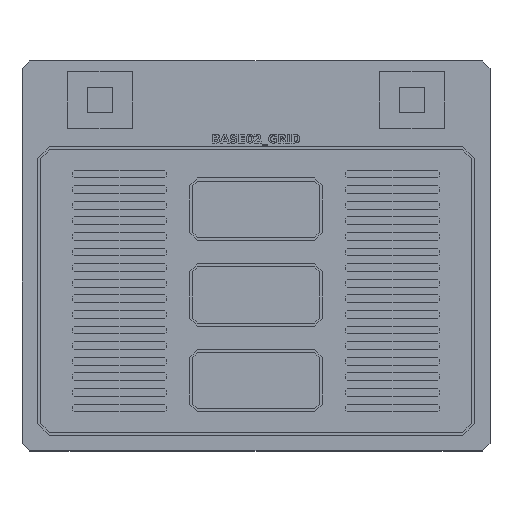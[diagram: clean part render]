
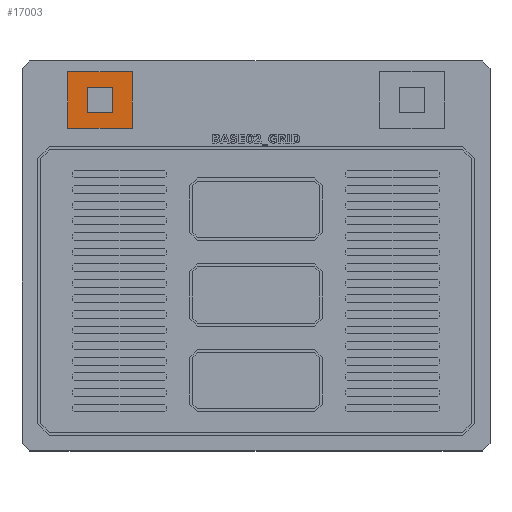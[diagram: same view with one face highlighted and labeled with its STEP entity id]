
A CAD part, top view. The second image highlights one B-rep face of the part: STEP entity #17003.
In plain terms, the highlighted planar face has unit normal (0, 0, 1).
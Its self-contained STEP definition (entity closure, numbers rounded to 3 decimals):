
#2453 = PLANE('',#2454);
#2454 = AXIS2_PLACEMENT_3D('',#2455,#2456,#2457);
#2455 = CARTESIAN_POINT('',(11.7,82.7,6.));
#2456 = DIRECTION('',(-0.,1.,0.));
#2457 = DIRECTION('',(0.,0.,1.));
#2479 = PLANE('',#2480);
#2480 = AXIS2_PLACEMENT_3D('',#2481,#2482,#2483);
#2481 = CARTESIAN_POINT('',(11.7,82.7,6.));
#2482 = DIRECTION('',(1.,0.,-0.));
#2483 = DIRECTION('',(0.,0.,1.));
#2505 = PLANE('',#2506);
#2506 = AXIS2_PLACEMENT_3D('',#2507,#2508,#2509);
#2507 = CARTESIAN_POINT('',(11.7,97.3,6.));
#2508 = DIRECTION('',(-0.,1.,0.));
#2509 = DIRECTION('',(0.,0.,1.));
#2529 = PLANE('',#2530);
#2530 = AXIS2_PLACEMENT_3D('',#2531,#2532,#2533);
#2531 = CARTESIAN_POINT('',(28.3,82.7,6.));
#2532 = DIRECTION('',(1.,0.,-0.));
#2533 = DIRECTION('',(0.,0.,1.));
#9269 = VERTEX_POINT('',#9270);
#9270 = CARTESIAN_POINT('',(28.3,82.7,6.));
#9291 = EDGE_CURVE('',#9292,#9269,#9294,.T.);
#9292 = VERTEX_POINT('',#9293);
#9293 = CARTESIAN_POINT('',(11.7,82.7,6.));
#9294 = SURFACE_CURVE('',#9295,(#9299,#9306),.PCURVE_S1.);
#9295 = LINE('',#9296,#9297);
#9296 = CARTESIAN_POINT('',(11.7,82.7,6.));
#9297 = VECTOR('',#9298,1.);
#9298 = DIRECTION('',(1.,0.,-0.));
#9299 = PCURVE('',#2453,#9300);
#9300 = DEFINITIONAL_REPRESENTATION('',(#9301),#9305);
#9301 = LINE('',#9302,#9303);
#9302 = CARTESIAN_POINT('',(0.,0.));
#9303 = VECTOR('',#9304,1.);
#9304 = DIRECTION('',(0.,1.));
#9305 = ( GEOMETRIC_REPRESENTATION_CONTEXT(2) 
PARAMETRIC_REPRESENTATION_CONTEXT() REPRESENTATION_CONTEXT('2D SPACE',''
  ) );
#9306 = PCURVE('',#9307,#9312);
#9307 = PLANE('',#9308);
#9308 = AXIS2_PLACEMENT_3D('',#9309,#9310,#9311);
#9309 = CARTESIAN_POINT('',(11.7,82.7,6.));
#9310 = DIRECTION('',(0.,0.,1.));
#9311 = DIRECTION('',(1.,0.,-0.));
#9312 = DEFINITIONAL_REPRESENTATION('',(#9313),#9317);
#9313 = LINE('',#9314,#9315);
#9314 = CARTESIAN_POINT('',(0.,0.));
#9315 = VECTOR('',#9316,1.);
#9316 = DIRECTION('',(1.,0.));
#9317 = ( GEOMETRIC_REPRESENTATION_CONTEXT(2) 
PARAMETRIC_REPRESENTATION_CONTEXT() REPRESENTATION_CONTEXT('2D SPACE',''
  ) );
#9345 = EDGE_CURVE('',#9269,#9346,#9348,.T.);
#9346 = VERTEX_POINT('',#9347);
#9347 = CARTESIAN_POINT('',(28.3,97.3,6.));
#9348 = SURFACE_CURVE('',#9349,(#9353,#9360),.PCURVE_S1.);
#9349 = LINE('',#9350,#9351);
#9350 = CARTESIAN_POINT('',(28.3,82.7,6.));
#9351 = VECTOR('',#9352,1.);
#9352 = DIRECTION('',(-0.,1.,0.));
#9353 = PCURVE('',#2529,#9354);
#9354 = DEFINITIONAL_REPRESENTATION('',(#9355),#9359);
#9355 = LINE('',#9356,#9357);
#9356 = CARTESIAN_POINT('',(0.,0.));
#9357 = VECTOR('',#9358,1.);
#9358 = DIRECTION('',(0.,-1.));
#9359 = ( GEOMETRIC_REPRESENTATION_CONTEXT(2) 
PARAMETRIC_REPRESENTATION_CONTEXT() REPRESENTATION_CONTEXT('2D SPACE',''
  ) );
#9360 = PCURVE('',#9307,#9361);
#9361 = DEFINITIONAL_REPRESENTATION('',(#9362),#9366);
#9362 = LINE('',#9363,#9364);
#9363 = CARTESIAN_POINT('',(16.6,0.));
#9364 = VECTOR('',#9365,1.);
#9365 = DIRECTION('',(0.,1.));
#9366 = ( GEOMETRIC_REPRESENTATION_CONTEXT(2) 
PARAMETRIC_REPRESENTATION_CONTEXT() REPRESENTATION_CONTEXT('2D SPACE',''
  ) );
#9394 = EDGE_CURVE('',#9292,#9395,#9397,.T.);
#9395 = VERTEX_POINT('',#9396);
#9396 = CARTESIAN_POINT('',(11.7,97.3,6.));
#9397 = SURFACE_CURVE('',#9398,(#9402,#9409),.PCURVE_S1.);
#9398 = LINE('',#9399,#9400);
#9399 = CARTESIAN_POINT('',(11.7,82.7,6.));
#9400 = VECTOR('',#9401,1.);
#9401 = DIRECTION('',(-0.,1.,0.));
#9402 = PCURVE('',#2479,#9403);
#9403 = DEFINITIONAL_REPRESENTATION('',(#9404),#9408);
#9404 = LINE('',#9405,#9406);
#9405 = CARTESIAN_POINT('',(0.,0.));
#9406 = VECTOR('',#9407,1.);
#9407 = DIRECTION('',(0.,-1.));
#9408 = ( GEOMETRIC_REPRESENTATION_CONTEXT(2) 
PARAMETRIC_REPRESENTATION_CONTEXT() REPRESENTATION_CONTEXT('2D SPACE',''
  ) );
#9409 = PCURVE('',#9307,#9410);
#9410 = DEFINITIONAL_REPRESENTATION('',(#9411),#9415);
#9411 = LINE('',#9412,#9413);
#9412 = CARTESIAN_POINT('',(0.,0.));
#9413 = VECTOR('',#9414,1.);
#9414 = DIRECTION('',(0.,1.));
#9415 = ( GEOMETRIC_REPRESENTATION_CONTEXT(2) 
PARAMETRIC_REPRESENTATION_CONTEXT() REPRESENTATION_CONTEXT('2D SPACE',''
  ) );
#9443 = EDGE_CURVE('',#9395,#9346,#9444,.T.);
#9444 = SURFACE_CURVE('',#9445,(#9449,#9456),.PCURVE_S1.);
#9445 = LINE('',#9446,#9447);
#9446 = CARTESIAN_POINT('',(11.7,97.3,6.));
#9447 = VECTOR('',#9448,1.);
#9448 = DIRECTION('',(1.,0.,-0.));
#9449 = PCURVE('',#2505,#9450);
#9450 = DEFINITIONAL_REPRESENTATION('',(#9451),#9455);
#9451 = LINE('',#9452,#9453);
#9452 = CARTESIAN_POINT('',(0.,0.));
#9453 = VECTOR('',#9454,1.);
#9454 = DIRECTION('',(0.,1.));
#9455 = ( GEOMETRIC_REPRESENTATION_CONTEXT(2) 
PARAMETRIC_REPRESENTATION_CONTEXT() REPRESENTATION_CONTEXT('2D SPACE',''
  ) );
#9456 = PCURVE('',#9307,#9457);
#9457 = DEFINITIONAL_REPRESENTATION('',(#9458),#9462);
#9458 = LINE('',#9459,#9460);
#9459 = CARTESIAN_POINT('',(0.,14.6));
#9460 = VECTOR('',#9461,1.);
#9461 = DIRECTION('',(1.,0.));
#9462 = ( GEOMETRIC_REPRESENTATION_CONTEXT(2) 
PARAMETRIC_REPRESENTATION_CONTEXT() REPRESENTATION_CONTEXT('2D SPACE',''
  ) );
#17003 = ADVANCED_FACE('',(#17004,#17010),#9307,.T.);
#17004 = FACE_BOUND('',#17005,.T.);
#17005 = EDGE_LOOP('',(#17006,#17007,#17008,#17009));
#17006 = ORIENTED_EDGE('',*,*,#9394,.F.);
#17007 = ORIENTED_EDGE('',*,*,#9291,.T.);
#17008 = ORIENTED_EDGE('',*,*,#9345,.T.);
#17009 = ORIENTED_EDGE('',*,*,#9443,.F.);
#17010 = FACE_BOUND('',#17011,.T.);
#17011 = EDGE_LOOP('',(#17012,#17040,#17066,#17092));
#17012 = ORIENTED_EDGE('',*,*,#17013,.T.);
#17013 = EDGE_CURVE('',#17014,#17016,#17018,.T.);
#17014 = VERTEX_POINT('',#17015);
#17015 = CARTESIAN_POINT('',(23.3,86.7,6.));
#17016 = VERTEX_POINT('',#17017);
#17017 = CARTESIAN_POINT('',(16.7,86.7,6.));
#17018 = SURFACE_CURVE('',#17019,(#17023,#17029),.PCURVE_S1.);
#17019 = LINE('',#17020,#17021);
#17020 = CARTESIAN_POINT('',(14.2,86.7,6.));
#17021 = VECTOR('',#17022,1.);
#17022 = DIRECTION('',(-1.,-0.,0.));
#17023 = PCURVE('',#9307,#17024);
#17024 = DEFINITIONAL_REPRESENTATION('',(#17025),#17028);
#17025 = B_SPLINE_CURVE_WITH_KNOTS('',1,(#17026,#17027),.UNSPECIFIED.,
  .F.,.F.,(2,2),(-9.1,-2.5),.PIECEWISE_BEZIER_KNOTS.);
#17026 = CARTESIAN_POINT('',(11.6,4.));
#17027 = CARTESIAN_POINT('',(5.,4.));
#17028 = ( GEOMETRIC_REPRESENTATION_CONTEXT(2) 
PARAMETRIC_REPRESENTATION_CONTEXT() REPRESENTATION_CONTEXT('2D SPACE',''
  ) );
#17029 = PCURVE('',#17030,#17035);
#17030 = PLANE('',#17031);
#17031 = AXIS2_PLACEMENT_3D('',#17032,#17033,#17034);
#17032 = CARTESIAN_POINT('',(16.7,86.7,3.));
#17033 = DIRECTION('',(-0.,1.,0.));
#17034 = DIRECTION('',(0.,0.,1.));
#17035 = DEFINITIONAL_REPRESENTATION('',(#17036),#17039);
#17036 = B_SPLINE_CURVE_WITH_KNOTS('',1,(#17037,#17038),.UNSPECIFIED.,
  .F.,.F.,(2,2),(-9.1,-2.5),.PIECEWISE_BEZIER_KNOTS.);
#17037 = CARTESIAN_POINT('',(3.,6.6));
#17038 = CARTESIAN_POINT('',(3.,0.));
#17039 = ( GEOMETRIC_REPRESENTATION_CONTEXT(2) 
PARAMETRIC_REPRESENTATION_CONTEXT() REPRESENTATION_CONTEXT('2D SPACE',''
  ) );
#17040 = ORIENTED_EDGE('',*,*,#17041,.T.);
#17041 = EDGE_CURVE('',#17016,#17042,#17044,.T.);
#17042 = VERTEX_POINT('',#17043);
#17043 = CARTESIAN_POINT('',(16.7,93.3,6.));
#17044 = SURFACE_CURVE('',#17045,(#17049,#17055),.PCURVE_S1.);
#17045 = LINE('',#17046,#17047);
#17046 = CARTESIAN_POINT('',(16.7,84.7,6.));
#17047 = VECTOR('',#17048,1.);
#17048 = DIRECTION('',(-0.,1.,0.));
#17049 = PCURVE('',#9307,#17050);
#17050 = DEFINITIONAL_REPRESENTATION('',(#17051),#17054);
#17051 = B_SPLINE_CURVE_WITH_KNOTS('',1,(#17052,#17053),.UNSPECIFIED.,
  .F.,.F.,(2,2),(2.,8.6),.PIECEWISE_BEZIER_KNOTS.);
#17052 = CARTESIAN_POINT('',(5.,4.));
#17053 = CARTESIAN_POINT('',(5.,10.6));
#17054 = ( GEOMETRIC_REPRESENTATION_CONTEXT(2) 
PARAMETRIC_REPRESENTATION_CONTEXT() REPRESENTATION_CONTEXT('2D SPACE',''
  ) );
#17055 = PCURVE('',#17056,#17061);
#17056 = PLANE('',#17057);
#17057 = AXIS2_PLACEMENT_3D('',#17058,#17059,#17060);
#17058 = CARTESIAN_POINT('',(16.7,86.7,3.));
#17059 = DIRECTION('',(1.,0.,-0.));
#17060 = DIRECTION('',(0.,0.,1.));
#17061 = DEFINITIONAL_REPRESENTATION('',(#17062),#17065);
#17062 = B_SPLINE_CURVE_WITH_KNOTS('',1,(#17063,#17064),.UNSPECIFIED.,
  .F.,.F.,(2,2),(2.,8.6),.PIECEWISE_BEZIER_KNOTS.);
#17063 = CARTESIAN_POINT('',(3.,0.));
#17064 = CARTESIAN_POINT('',(3.,-6.6));
#17065 = ( GEOMETRIC_REPRESENTATION_CONTEXT(2) 
PARAMETRIC_REPRESENTATION_CONTEXT() REPRESENTATION_CONTEXT('2D SPACE',''
  ) );
#17066 = ORIENTED_EDGE('',*,*,#17067,.F.);
#17067 = EDGE_CURVE('',#17068,#17042,#17070,.T.);
#17068 = VERTEX_POINT('',#17069);
#17069 = CARTESIAN_POINT('',(23.3,93.3,6.));
#17070 = SURFACE_CURVE('',#17071,(#17075,#17081),.PCURVE_S1.);
#17071 = LINE('',#17072,#17073);
#17072 = CARTESIAN_POINT('',(14.2,93.3,6.));
#17073 = VECTOR('',#17074,1.);
#17074 = DIRECTION('',(-1.,-0.,0.));
#17075 = PCURVE('',#9307,#17076);
#17076 = DEFINITIONAL_REPRESENTATION('',(#17077),#17080);
#17077 = B_SPLINE_CURVE_WITH_KNOTS('',1,(#17078,#17079),.UNSPECIFIED.,
  .F.,.F.,(2,2),(-9.1,-2.5),.PIECEWISE_BEZIER_KNOTS.);
#17078 = CARTESIAN_POINT('',(11.6,10.6));
#17079 = CARTESIAN_POINT('',(5.,10.6));
#17080 = ( GEOMETRIC_REPRESENTATION_CONTEXT(2) 
PARAMETRIC_REPRESENTATION_CONTEXT() REPRESENTATION_CONTEXT('2D SPACE',''
  ) );
#17081 = PCURVE('',#17082,#17087);
#17082 = PLANE('',#17083);
#17083 = AXIS2_PLACEMENT_3D('',#17084,#17085,#17086);
#17084 = CARTESIAN_POINT('',(16.7,93.3,3.));
#17085 = DIRECTION('',(-0.,1.,0.));
#17086 = DIRECTION('',(0.,0.,1.));
#17087 = DEFINITIONAL_REPRESENTATION('',(#17088),#17091);
#17088 = B_SPLINE_CURVE_WITH_KNOTS('',1,(#17089,#17090),.UNSPECIFIED.,
  .F.,.F.,(2,2),(-9.1,-2.5),.PIECEWISE_BEZIER_KNOTS.);
#17089 = CARTESIAN_POINT('',(3.,6.6));
#17090 = CARTESIAN_POINT('',(3.,0.));
#17091 = ( GEOMETRIC_REPRESENTATION_CONTEXT(2) 
PARAMETRIC_REPRESENTATION_CONTEXT() REPRESENTATION_CONTEXT('2D SPACE',''
  ) );
#17092 = ORIENTED_EDGE('',*,*,#17093,.F.);
#17093 = EDGE_CURVE('',#17014,#17068,#17094,.T.);
#17094 = SURFACE_CURVE('',#17095,(#17099,#17105),.PCURVE_S1.);
#17095 = LINE('',#17096,#17097);
#17096 = CARTESIAN_POINT('',(23.3,84.7,6.));
#17097 = VECTOR('',#17098,1.);
#17098 = DIRECTION('',(-0.,1.,0.));
#17099 = PCURVE('',#9307,#17100);
#17100 = DEFINITIONAL_REPRESENTATION('',(#17101),#17104);
#17101 = B_SPLINE_CURVE_WITH_KNOTS('',1,(#17102,#17103),.UNSPECIFIED.,
  .F.,.F.,(2,2),(2.,8.6),.PIECEWISE_BEZIER_KNOTS.);
#17102 = CARTESIAN_POINT('',(11.6,4.));
#17103 = CARTESIAN_POINT('',(11.6,10.6));
#17104 = ( GEOMETRIC_REPRESENTATION_CONTEXT(2) 
PARAMETRIC_REPRESENTATION_CONTEXT() REPRESENTATION_CONTEXT('2D SPACE',''
  ) );
#17105 = PCURVE('',#17106,#17111);
#17106 = PLANE('',#17107);
#17107 = AXIS2_PLACEMENT_3D('',#17108,#17109,#17110);
#17108 = CARTESIAN_POINT('',(23.3,86.7,3.));
#17109 = DIRECTION('',(1.,0.,-0.));
#17110 = DIRECTION('',(0.,0.,1.));
#17111 = DEFINITIONAL_REPRESENTATION('',(#17112),#17115);
#17112 = B_SPLINE_CURVE_WITH_KNOTS('',1,(#17113,#17114),.UNSPECIFIED.,
  .F.,.F.,(2,2),(2.,8.6),.PIECEWISE_BEZIER_KNOTS.);
#17113 = CARTESIAN_POINT('',(3.,0.));
#17114 = CARTESIAN_POINT('',(3.,-6.6));
#17115 = ( GEOMETRIC_REPRESENTATION_CONTEXT(2) 
PARAMETRIC_REPRESENTATION_CONTEXT() REPRESENTATION_CONTEXT('2D SPACE',''
  ) );
